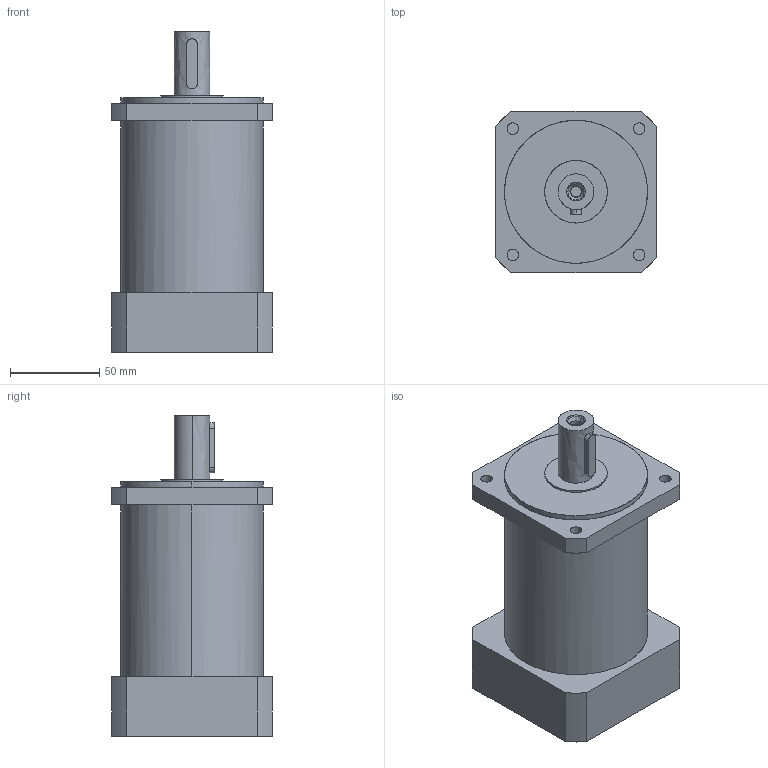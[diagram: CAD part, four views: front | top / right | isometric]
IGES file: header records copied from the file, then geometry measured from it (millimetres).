
Start section: Parasolid data in IGES format
Global section: file name: PLE80-90_3.igs; native system: Parasolid(11.0); preprocessor: Pariges 3.0; author: noname; organization: noname; date: 19991109.083459; units: millimetre
Bounding box: 90 x 90 x 179.5 mm (x, y, z)
Surface area: 68489.7 mm2 (no closed solid volume)
Topology: 0 solids, 0 shells, 74 faces, 1027 edges, 1027 vertices
Faces by surface type: bspline 74
